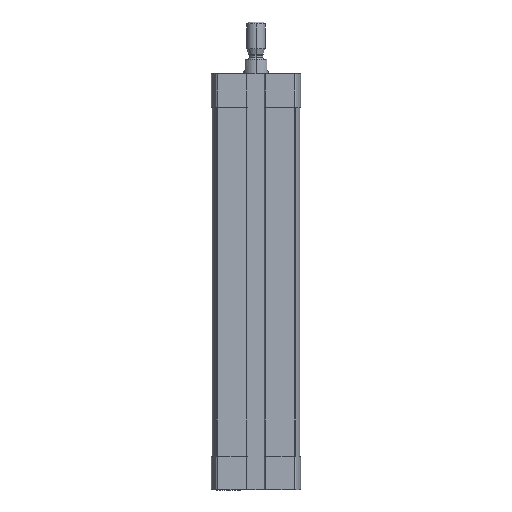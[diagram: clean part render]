
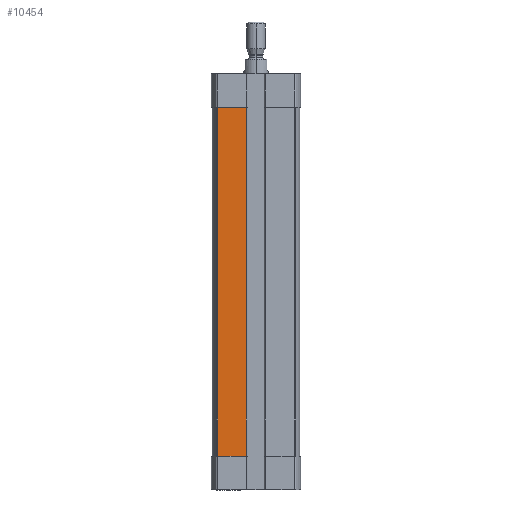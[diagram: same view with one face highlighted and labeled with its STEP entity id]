
A CAD part, left-side view. The second image highlights one B-rep face of the part: STEP entity #10454.
In plain terms, the highlighted planar face has unit normal (-1, 0, 0).
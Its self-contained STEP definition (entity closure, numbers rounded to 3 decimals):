
#264 = VECTOR ( 'NONE', #1491, 1000. ) ;
#621 = CARTESIAN_POINT ( 'NONE',  ( -14.25, 3.1, -124. ) ) ;
#858 = EDGE_CURVE ( 'NONE', #3381, #9907, #6239, .T. ) ;
#1013 = CARTESIAN_POINT ( 'NONE',  ( -14.25, 0., -11. ) ) ;
#1390 = VECTOR ( 'NONE', #2135, 1000. ) ;
#1464 = CARTESIAN_POINT ( 'NONE',  ( -14.25, 12.347, -124. ) ) ;
#1491 = DIRECTION ( 'NONE',  ( 0., 0., -1. ) ) ;
#1820 = VECTOR ( 'NONE', #6461, 1000. ) ;
#2135 = DIRECTION ( 'NONE',  ( 0., -1., 0. ) ) ;
#2624 = PLANE ( 'NONE',  #11318 ) ;
#3029 = FACE_OUTER_BOUND ( 'NONE', #4268, .T. ) ;
#3124 = ORIENTED_EDGE ( 'NONE', *, *, #8841, .T. ) ;
#3381 = VERTEX_POINT ( 'NONE', #5040 ) ;
#3507 = VERTEX_POINT ( 'NONE', #5241 ) ;
#3541 = DIRECTION ( 'NONE',  ( -1., 0., 0. ) ) ;
#4038 = CARTESIAN_POINT ( 'NONE',  ( -14.25, 12.347, -124. ) ) ;
#4268 = EDGE_LOOP ( 'NONE', ( #6208, #3124, #10809, #7104 ) ) ;
#4974 = EDGE_CURVE ( 'NONE', #3507, #3381, #5412, .T. ) ;
#5040 = CARTESIAN_POINT ( 'NONE',  ( -14.25, 12.347, -124. ) ) ;
#5176 = DIRECTION ( 'NONE',  ( 0., 0., 1. ) ) ;
#5194 = VERTEX_POINT ( 'NONE', #11627 ) ;
#5241 = CARTESIAN_POINT ( 'NONE',  ( -14.25, 12.347, -11. ) ) ;
#5412 = LINE ( 'NONE', #1464, #264 ) ;
#5503 = VECTOR ( 'NONE', #5176, 1000. ) ;
#6208 = ORIENTED_EDGE ( 'NONE', *, *, #858, .T. ) ;
#6239 = LINE ( 'NONE', #4038, #1390 ) ;
#6340 = CARTESIAN_POINT ( 'NONE',  ( -14.25, 3.1, -124. ) ) ;
#6375 = LINE ( 'NONE', #1013, #1820 ) ;
#6461 = DIRECTION ( 'NONE',  ( 0., 1., 0. ) ) ;
#7104 = ORIENTED_EDGE ( 'NONE', *, *, #4974, .T. ) ;
#7762 = EDGE_CURVE ( 'NONE', #5194, #3507, #6375, .T. ) ;
#8048 = CARTESIAN_POINT ( 'NONE',  ( -14.25, 12.347, -124. ) ) ;
#8156 = LINE ( 'NONE', #621, #5503 ) ;
#8841 = EDGE_CURVE ( 'NONE', #9907, #5194, #8156, .T. ) ;
#9811 = DIRECTION ( 'NONE',  ( 0., 0., 1. ) ) ;
#9907 = VERTEX_POINT ( 'NONE', #6340 ) ;
#10454 = ADVANCED_FACE ( 'NONE', ( #3029 ), #2624, .T. ) ;
#10809 = ORIENTED_EDGE ( 'NONE', *, *, #7762, .T. ) ;
#11318 = AXIS2_PLACEMENT_3D ( 'NONE', #8048, #3541, #9811 ) ;
#11627 = CARTESIAN_POINT ( 'NONE',  ( -14.25, 3.1, -11. ) ) ;
